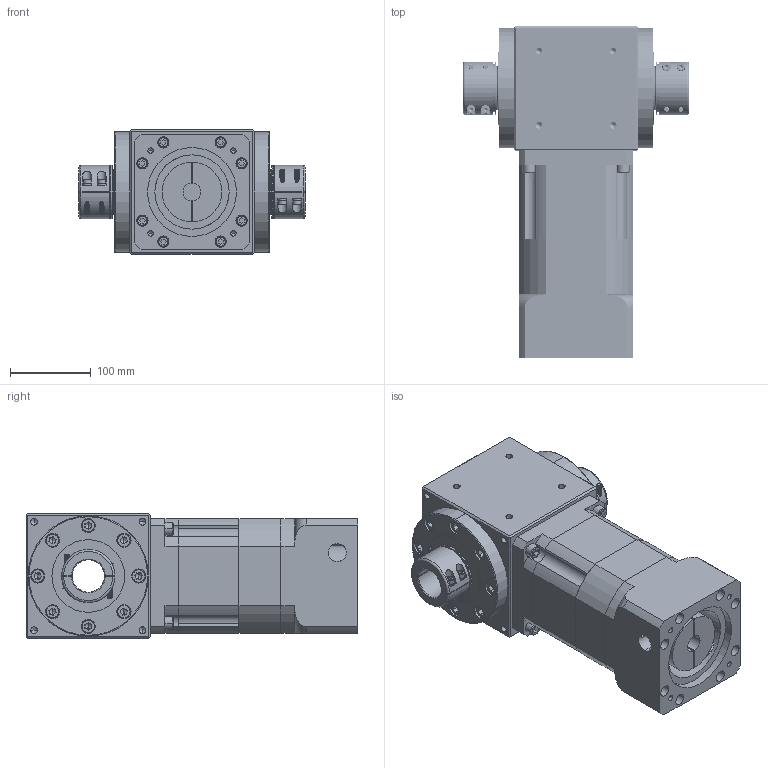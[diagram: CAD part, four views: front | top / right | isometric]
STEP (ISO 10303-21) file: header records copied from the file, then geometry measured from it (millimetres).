
FILE_DESCRIPTION (( 'STEP AP214' ), '1' );
FILE_NAME ('RAM150-L2-XX-D-22-110-145-M8_2019.STEP', '2019-04-10T06:27:06', ( 'Y' ), ( 'NCU' ), 'SwSTEP 2.0', 'SolidWorks 2016', '' );
FILE_SCHEMA (( 'AUTOMOTIVE_DESIGN' ));
Length unit declared in the file: millimetre
Products named in the file (1): RAM150-L2-XX-D-22-110-145-M8_2019
Bounding box: 280 x 411 x 154 mm (x, y, z)
Volume: 8639261.4 mm3; surface area: 648553.8 mm2
Topology: 5 solids, 21 shells, 1631 faces, 4252 edges, 2592 vertices
Faces by surface type: cylinder 676, plane 639, cone 150, bspline 90, torus 76
Entity records: 169063 total; most frequent: CARTESIAN_POINT 130729, ORIENTED_EDGE 8312, DIRECTION 7296, EDGE_CURVE 4156, AXIS2_PLACEMENT_3D 2758, VERTEX_POINT 2592, EDGE_LOOP 1826, VECTOR 1780
